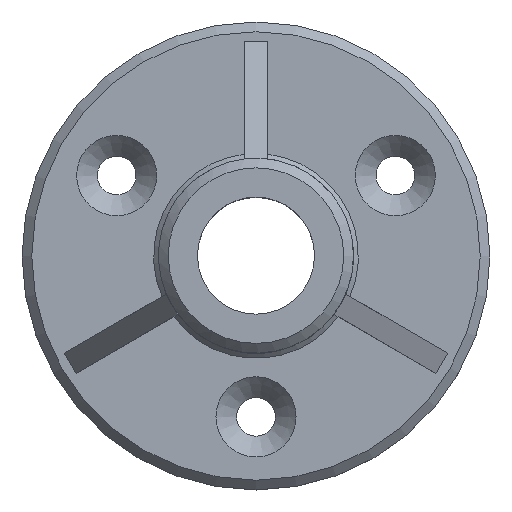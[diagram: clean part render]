
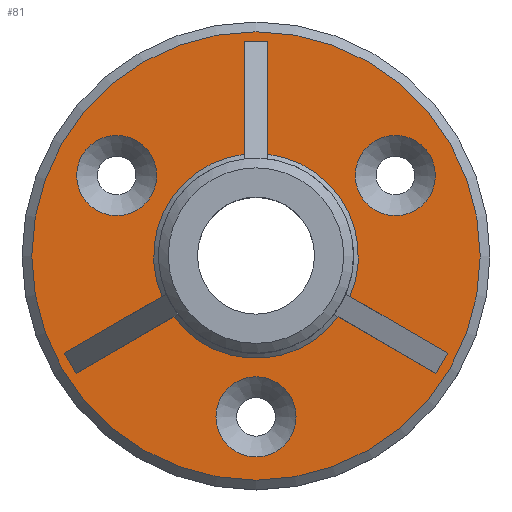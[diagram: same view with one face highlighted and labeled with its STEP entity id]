
A CAD part, top view. The second image highlights one B-rep face of the part: STEP entity #81.
In plain terms, the highlighted planar face has unit normal (0, 0, 1).
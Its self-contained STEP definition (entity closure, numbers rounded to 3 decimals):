
#67=PLANE('',#616);
#81=ADVANCED_FACE('',(#206,#207,#208,#209,#210),#67,.T.);
#133=LINE('',#920,#156);
#134=LINE('',#925,#157);
#135=LINE('',#927,#158);
#136=LINE('',#929,#159);
#137=LINE('',#933,#160);
#138=LINE('',#935,#161);
#139=LINE('',#937,#162);
#140=LINE('',#941,#163);
#141=LINE('',#943,#164);
#156=VECTOR('',#698,1.);
#157=VECTOR('',#701,1.);
#158=VECTOR('',#702,1.);
#159=VECTOR('',#703,1.);
#160=VECTOR('',#706,1.);
#161=VECTOR('',#707,1.);
#162=VECTOR('',#708,1.);
#163=VECTOR('',#711,1.);
#164=VECTOR('',#712,1.);
#177=CIRCLE('',#609,6.855);
#178=CIRCLE('',#610,6.855);
#179=CIRCLE('',#611,6.855);
#180=CIRCLE('',#612,17.5);
#181=CIRCLE('',#613,17.5);
#182=CIRCLE('',#614,17.5);
#183=CIRCLE('',#615,38.333);
#206=FACE_BOUND('',#250,.T.);
#207=FACE_BOUND('',#251,.T.);
#208=FACE_BOUND('',#252,.T.);
#209=FACE_BOUND('',#253,.T.);
#210=FACE_BOUND('',#254,.T.);
#250=EDGE_LOOP('',(#323));
#251=EDGE_LOOP('',(#324));
#252=EDGE_LOOP('',(#325));
#253=EDGE_LOOP('',(#326,#327,#328,#329,#330,#331,#332,#333,#334,#335,#336,
#337));
#254=EDGE_LOOP('',(#338));
#323=ORIENTED_EDGE('',*,*,#524,.T.);
#324=ORIENTED_EDGE('',*,*,#525,.T.);
#325=ORIENTED_EDGE('',*,*,#526,.T.);
#326=ORIENTED_EDGE('',*,*,#527,.F.);
#327=ORIENTED_EDGE('',*,*,#528,.T.);
#328=ORIENTED_EDGE('',*,*,#529,.T.);
#329=ORIENTED_EDGE('',*,*,#530,.F.);
#330=ORIENTED_EDGE('',*,*,#531,.F.);
#331=ORIENTED_EDGE('',*,*,#532,.T.);
#332=ORIENTED_EDGE('',*,*,#533,.T.);
#333=ORIENTED_EDGE('',*,*,#534,.F.);
#334=ORIENTED_EDGE('',*,*,#535,.F.);
#335=ORIENTED_EDGE('',*,*,#536,.T.);
#336=ORIENTED_EDGE('',*,*,#537,.T.);
#337=ORIENTED_EDGE('',*,*,#538,.T.);
#338=ORIENTED_EDGE('',*,*,#539,.T.);
#469=VERTEX_POINT('',#915);
#470=VERTEX_POINT('',#917);
#471=VERTEX_POINT('',#919);
#472=VERTEX_POINT('',#921);
#473=VERTEX_POINT('',#922);
#474=VERTEX_POINT('',#924);
#475=VERTEX_POINT('',#926);
#476=VERTEX_POINT('',#928);
#477=VERTEX_POINT('',#930);
#478=VERTEX_POINT('',#932);
#479=VERTEX_POINT('',#934);
#480=VERTEX_POINT('',#936);
#481=VERTEX_POINT('',#938);
#482=VERTEX_POINT('',#940);
#483=VERTEX_POINT('',#942);
#484=VERTEX_POINT('',#945);
#524=EDGE_CURVE('',#469,#469,#177,.T.);
#525=EDGE_CURVE('',#470,#470,#178,.T.);
#526=EDGE_CURVE('',#471,#471,#179,.T.);
#527=EDGE_CURVE('',#472,#473,#133,.T.);
#528=EDGE_CURVE('',#472,#474,#180,.T.);
#529=EDGE_CURVE('',#474,#475,#134,.T.);
#530=EDGE_CURVE('',#476,#475,#135,.T.);
#531=EDGE_CURVE('',#477,#476,#136,.T.);
#532=EDGE_CURVE('',#477,#478,#181,.T.);
#533=EDGE_CURVE('',#478,#479,#137,.T.);
#534=EDGE_CURVE('',#480,#479,#138,.T.);
#535=EDGE_CURVE('',#481,#480,#139,.T.);
#536=EDGE_CURVE('',#481,#482,#182,.T.);
#537=EDGE_CURVE('',#482,#483,#140,.T.);
#538=EDGE_CURVE('',#483,#473,#141,.T.);
#539=EDGE_CURVE('',#484,#484,#183,.T.);
#609=AXIS2_PLACEMENT_3D('',#914,#692,#693);
#610=AXIS2_PLACEMENT_3D('',#916,#694,#695);
#611=AXIS2_PLACEMENT_3D('',#918,#696,#697);
#612=AXIS2_PLACEMENT_3D('',#923,#699,#700);
#613=AXIS2_PLACEMENT_3D('',#931,#704,#705);
#614=AXIS2_PLACEMENT_3D('',#939,#709,#710);
#615=AXIS2_PLACEMENT_3D('',#944,#713,#714);
#616=AXIS2_PLACEMENT_3D('',#946,#715,#716);
#692=DIRECTION('',(0.,0.,-1.));
#693=DIRECTION('',(-1.,0.,0.));
#694=DIRECTION('',(0.,0.,-1.));
#695=DIRECTION('',(-1.,0.,0.));
#696=DIRECTION('',(0.,0.,-1.));
#697=DIRECTION('',(-1.,0.,0.));
#698=DIRECTION('',(0.,1.,0.));
#699=DIRECTION('',(0.,0.,-1.));
#700=DIRECTION('',(1.,0.,0.));
#701=DIRECTION('',(0.866,-0.5,0.));
#702=DIRECTION('',(0.5,0.866,0.));
#703=DIRECTION('',(0.866,-0.5,0.));
#704=DIRECTION('',(0.,0.,-1.));
#705=DIRECTION('',(1.,0.,0.));
#706=DIRECTION('',(-0.866,-0.5,0.));
#707=DIRECTION('',(0.5,-0.866,0.));
#708=DIRECTION('',(-0.866,-0.5,0.));
#709=DIRECTION('',(0.,0.,-1.));
#710=DIRECTION('',(1.,0.,0.));
#711=DIRECTION('',(0.,1.,0.));
#712=DIRECTION('',(1.,0.,0.));
#713=DIRECTION('',(0.,0.,1.));
#714=DIRECTION('',(1.,0.,0.));
#715=DIRECTION('',(0.,0.,1.));
#716=DIRECTION('',(1.,0.,0.));
#914=CARTESIAN_POINT('',(0.,-27.5,6.667));
#915=CARTESIAN_POINT('',(-6.855,-27.5,6.667));
#916=CARTESIAN_POINT('',(23.816,13.75,6.667));
#917=CARTESIAN_POINT('',(16.961,13.75,6.667));
#918=CARTESIAN_POINT('',(-23.816,13.75,6.667));
#919=CARTESIAN_POINT('',(-30.671,13.75,6.667));
#920=CARTESIAN_POINT('',(2.,13.333,6.667));
#921=CARTESIAN_POINT('',(2.,17.385,6.667));
#922=CARTESIAN_POINT('',(2.,36.667,6.667));
#923=CARTESIAN_POINT('',(0.,0.,6.667));
#924=CARTESIAN_POINT('',(16.056,-6.961,6.667));
#925=CARTESIAN_POINT('',(12.547,-4.935,6.667));
#926=CARTESIAN_POINT('',(32.754,-16.601,6.667));
#927=CARTESIAN_POINT('',(30.754,-20.065,6.667));
#928=CARTESIAN_POINT('',(30.754,-20.065,6.667));
#929=CARTESIAN_POINT('',(10.547,-8.399,6.667));
#930=CARTESIAN_POINT('',(14.056,-10.425,6.667));
#931=CARTESIAN_POINT('',(0.,0.,6.667));
#932=CARTESIAN_POINT('',(-14.056,-10.425,6.667));
#933=CARTESIAN_POINT('',(-10.547,-8.399,6.667));
#934=CARTESIAN_POINT('',(-30.754,-20.065,6.667));
#935=CARTESIAN_POINT('',(-32.754,-16.601,6.667));
#936=CARTESIAN_POINT('',(-32.754,-16.601,6.667));
#937=CARTESIAN_POINT('',(-12.547,-4.935,6.667));
#938=CARTESIAN_POINT('',(-16.056,-6.961,6.667));
#939=CARTESIAN_POINT('',(0.,0.,6.667));
#940=CARTESIAN_POINT('',(-2.,17.385,6.667));
#941=CARTESIAN_POINT('',(-2.,13.333,6.667));
#942=CARTESIAN_POINT('',(-2.,36.667,6.667));
#943=CARTESIAN_POINT('',(2.,36.667,6.667));
#944=CARTESIAN_POINT('',(0.,0.,6.667));
#945=CARTESIAN_POINT('',(38.333,0.,6.667));
#946=CARTESIAN_POINT('',(40.,0.,6.667));
